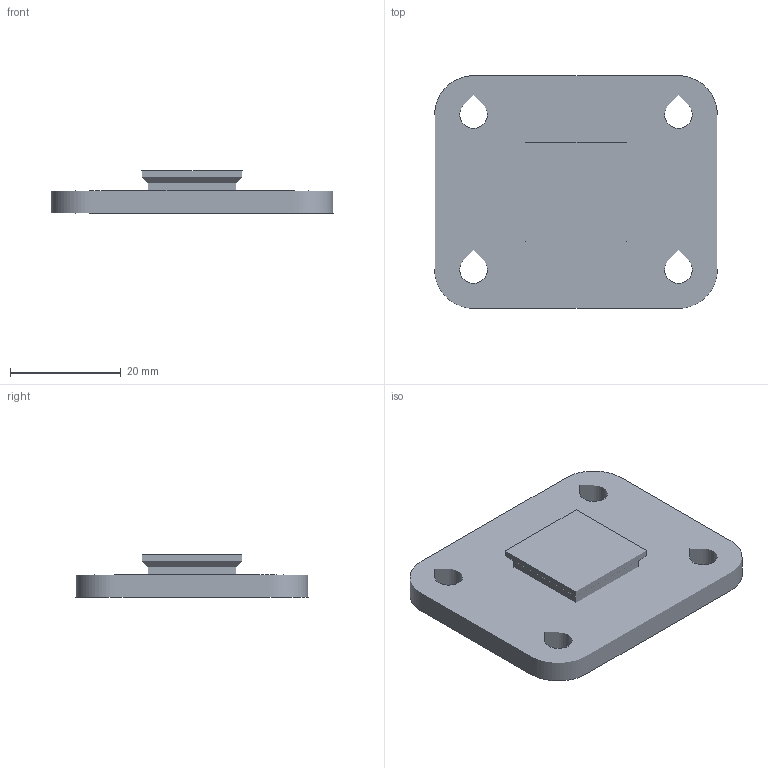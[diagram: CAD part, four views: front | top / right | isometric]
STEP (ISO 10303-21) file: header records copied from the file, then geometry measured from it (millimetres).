
FILE_DESCRIPTION(/* description */ ('STEP AP242 Edition 2','CAx-IF Rec.Pracs.---Representation and Presentation of Product Manufacturing Information (PMI)---4.0---2014-10-13','CAx-IF Rec.Pracs.---3D Tessellated Geometry---0.4---2014-09-14','2;1','CAx-IF Rec.Pracs.---User Defined Attributes---1.5---2016-08-15'),/* implementation_level */ '2;1');
FILE_NAME(/* name */ 'BambuLabA1mini_Leader_SO101 - Part 9',/* time_stamp */ '2026-11-25T15:08:23Z',/* author */ (''),/* organization */ (''),/* preprocessor_version */ 'ST-DEVELOPER v20',/* originating_system */ 'ONSHAPE BY PTC INC, 1.224',/* authorisation */ ' ');
FILE_SCHEMA (('AP242_MANAGED_MODEL_BASED_3D_ENGINEERING_MIM_LF { 1 0 10303 442 3 1 4 }'));
Length unit declared in the file: metre
Products named in the file (1): Part 9
Bounding box: 51 x 42 x 7.6 mm (x, y, z)
Surface area: 5345.4 mm2 (no closed solid volume)
Topology: 0 solids, 1 shells, 1 faces, 0 edges, 0 vertices
Faces by surface type: other 1
Entity records: 38 total; most frequent: STYLED_ITEM 2, PRESENTATION_STYLE_ASSIGNMENT 2, SURFACE_STYLE_USAGE 2, SURFACE_SIDE_STYLE 2, SURFACE_STYLE_FILL_AREA 2, FILL_AREA_STYLE 2, FILL_AREA_STYLE_COLOUR 2, DIRECTION 2
